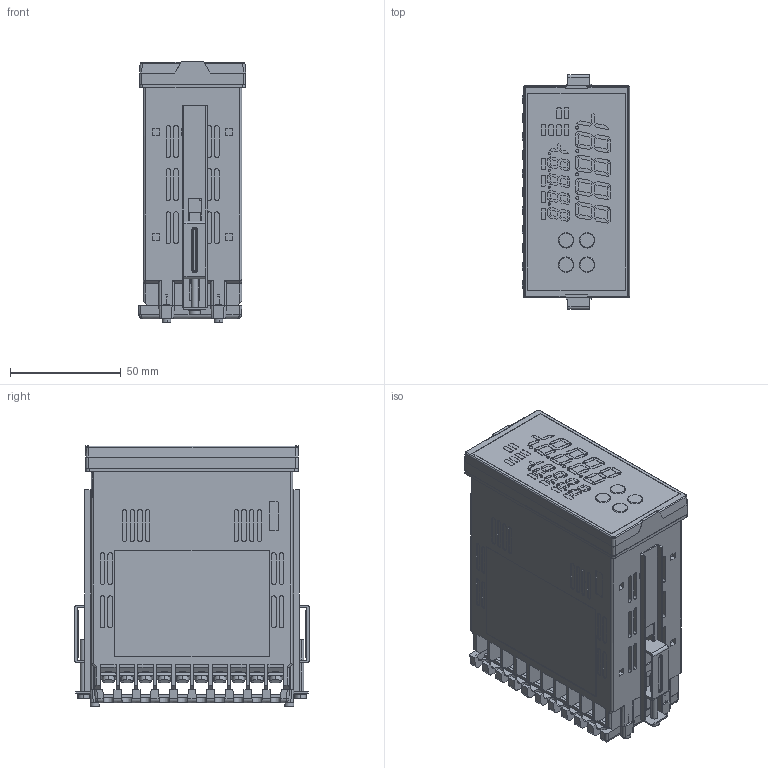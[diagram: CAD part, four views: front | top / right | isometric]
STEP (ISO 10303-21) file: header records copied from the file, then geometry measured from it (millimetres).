
FILE_DESCRIPTION (( 'STEP AP214' ), '1' );
FILE_NAME ('AS_JIR_170124.STEP', '2017-01-24T02:18:05', ( '' ), ( '' ), 'SwSTEP 2.0', 'SolidWorks 2013', '' );
FILE_SCHEMA (( 'AUTOMOTIVE_DESIGN' ));
Length unit declared in the file: millimetre
Products named in the file (5): 端子カバー_JIR_170124; 取付金具_JIR_170123; 僈僗働僢僩A_JIR_170124; JIR-300_170124; AS_JIR_170124
Assembly tree (5 placements, depth 2):
  AS_JIR_170124
    JIR-300_170124
    僈僗働僢僩A_JIR_170124
    取付金具_JIR_170123  x2
    端子カバー_JIR_170124
Bounding box: 48.5 x 106.2 x 117.8 mm (x, y, z)
Volume: 432382.1 mm3; surface area: 72306.2 mm2
Topology: 15 solids, 15 shells, 1959 faces, 5120 edges, 3386 vertices
Faces by surface type: plane 1353, cylinder 534, cone 28, torus 24, bspline 20
Entity records: 73801 total; most frequent: CARTESIAN_POINT 10894, ORIENTED_EDGE 9712, DIRECTION 9315, EDGE_CURVE 4856, LINE 3707, VECTOR 3707, VERTEX_POINT 3219, AXIS2_PLACEMENT_3D 2804
